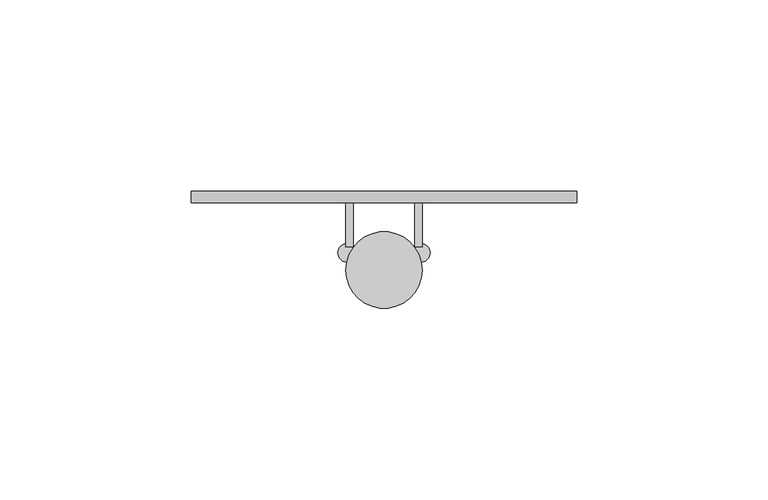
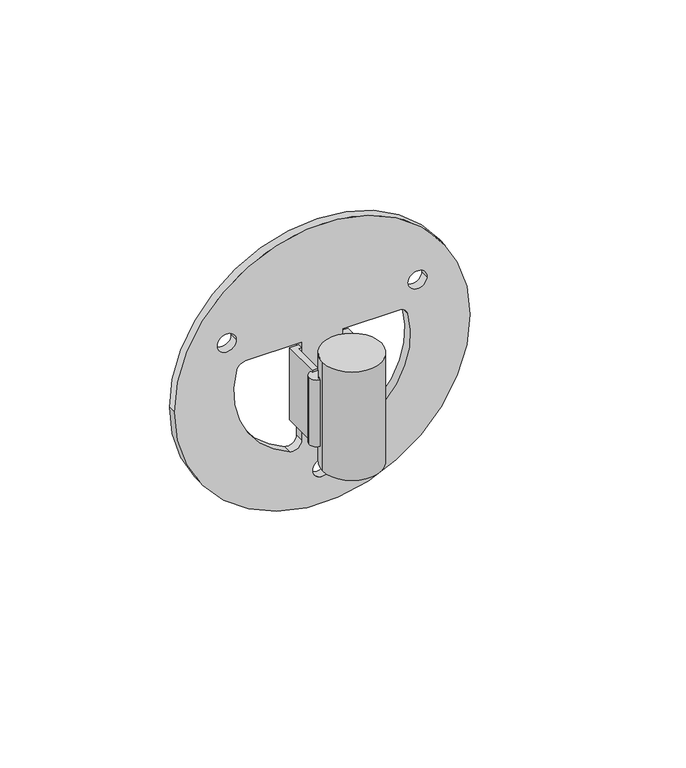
"""IFC4 building model written with IfcOpenShell, lengths in millimetres: proxy geometry, ePS8-WB02-WVM : ePS8-WB02-WVM."""

from ifc_helpers import new_model, si_unit, point, frame, frame_2d, origin, origin_2d, place, context, project, spatial, polyline, circle_curve, trimmed, segment, composite_curve, outline, extrude, source, transform, mapped, element, save


def generic_models_c327c4cc(model_context):
    return source(origin(), model_context, "Body", "SweptSolid", [
        extrude(outline(composite_curve([segment(trimmed(circle_curve(frame_2d((-9.5263012, -16.0228311)), 2.5), [point((-12.0263012, -16.0228311))], [point((-7.0263012, -16.0228311))], False, "CARTESIAN"), True, "CONTINUOUS"), segment(trimmed(circle_curve(frame_2d((-9.5263012, -16.0228311)), 2.5), [point((-7.0263012, -16.0228311))], [point((-12.0263012, -16.0228311))], False, "CARTESIAN"), True, "CONTINUOUS")], self_intersect=False)), frame((0.0, 0.0, -17.0), z_axis=(0.0, 0.0, 1.0), x_axis=(1.0, 0.0, 0.0)), (0.0, 0.0, 1.0), 24.0),
        extrude(outline(composite_curve([segment(trimmed(circle_curve(frame_2d((9.5263012, -16.0228311)), 2.5), [point((12.0263012, -16.0228311))], [point((7.0263012, -16.0228311))], False, "CARTESIAN"), True, "CONTINUOUS"), segment(trimmed(circle_curve(frame_2d((9.5263012, -16.0228311)), 2.5), [point((7.0263012, -16.0228311))], [point((12.0263012, -16.0228311))], False, "CARTESIAN"), True, "CONTINUOUS")], self_intersect=False)), frame((0.0, 0.0, -17.0), z_axis=(0.0, 0.0, 1.0), x_axis=(1.0, 0.0, 0.0)), (0.0, 0.0, 1.0), 24.0),
        extrude(outline(composite_curve([segment(trimmed(circle_curve(frame_2d((0.0, -20.5251268)), 10.0), [point((-10.0, -20.5251268))], [point((10.0, -20.5251268))], False, "CARTESIAN"), True, "CONTINUOUS"), segment(trimmed(circle_curve(frame_2d((0.0, -20.5251268)), 10.0), [point((10.0, -20.5251268))], [point((-10.0, -20.5251268))], False, "CARTESIAN"), True, "CONTINUOUS")], self_intersect=False)), frame((0.0, 0.0, -24.5009521), z_axis=(0.0, 0.0, 1.0), x_axis=(1.0, 0.0, 0.0)), (0.0, 0.0, 1.0), 39.0),
        extrude(outline(polyline([(-10.0, -1.0), (-7.0, -1.0), (-7.0, -3.0), (-8.0, -3.0), (-8.0, -14.5), (-10.0, -14.5), (-10.0, -1.0)])), frame((0.0, 0.0, -18.0019043), z_axis=(0.0, 0.0, 1.0), x_axis=(1.0, 0.0, 0.0)), (0.0, 0.0, 1.0), 26.0019043),
        extrude(outline(polyline([(10.0, -1.0), (10.0, -14.5), (8.0, -14.5), (8.0, -3.0), (7.0, -3.0), (7.0, -1.0), (10.0, -1.0)])), frame((0.0, 0.0, -18.0019043), z_axis=(0.0, 0.0, 1.0), x_axis=(1.0, 0.0, 0.0)), (0.0, 0.0, 1.0), 26.0019043),
        extrude(outline(composite_curve([segment(trimmed(circle_curve(origin_2d(), 50.3), [point((0.0, -50.3))], [point((0.0, 50.3))], False, "CARTESIAN"), True, "CONTINUOUS"), segment(trimmed(circle_curve(origin_2d(), 50.3), [point((0.0, 50.3))], [point((0.0, -50.3))], False, "CARTESIAN"), True, "CONTINUOUS")], self_intersect=False), holes=[composite_curve([segment(trimmed(circle_curve(origin_2d(), 30.0), [point((-27.8665249, -11.1111111))], [point((7.7777778, -28.9742329))], True, "CARTESIAN"), True, "CONTINUOUS"), segment(trimmed(circle_curve(frame_2d((7.0, -26.0768096)), 3.0), [point((7.7777778, -28.9742329))], [point((10.0, -26.0768096))], True, "CARTESIAN"), True, "CONTINUOUS"), segment(polyline([(10.0, -26.0768096), (10.0, -7.0), (-25.0798724, -7.0)]), True, "CONTINUOUS"), segment(trimmed(circle_curve(frame_2d((-25.0798724, -10.0)), 3.0), [point((-25.0798724, -7.0))], [point((-27.8665249, -11.1111111))], True, "CARTESIAN"), True, "CONTINUOUS")], self_intersect=False), composite_curve([segment(trimmed(circle_curve(frame_2d((18.7476534, -32.4779697)), 3.2), [point((18.7476534, -29.2779697))], [point((18.7476534, -35.6779697))], True, "CARTESIAN"), True, "CONTINUOUS"), segment(trimmed(circle_curve(frame_2d((18.7476534, -32.4779697)), 3.2), [point((18.7476534, -35.6779697))], [point((18.7476534, -29.2779697))], True, "CARTESIAN"), True, "CONTINUOUS")], self_intersect=False), composite_curve([segment(trimmed(circle_curve(frame_2d((18.7476534, 32.4779697)), 3.2), [point((18.7476534, 29.2779697))], [point((18.7476534, 35.6779697))], True, "CARTESIAN"), True, "CONTINUOUS"), segment(trimmed(circle_curve(frame_2d((18.7476534, 32.4779697)), 3.2), [point((18.7476534, 35.6779697))], [point((18.7476534, 29.2779697))], True, "CARTESIAN"), True, "CONTINUOUS")], self_intersect=False), composite_curve([segment(trimmed(circle_curve(frame_2d((-37.417682, 0.0)), 3.2), [point((-37.417682, 3.2))], [point((-37.417682, -3.2))], True, "CARTESIAN"), True, "CONTINUOUS"), segment(trimmed(circle_curve(frame_2d((-37.417682, 0.0)), 3.2), [point((-37.417682, -3.2))], [point((-37.417682, 3.2))], True, "CARTESIAN"), True, "CONTINUOUS")], self_intersect=False), composite_curve([segment(polyline([(10.0, 7.0), (10.0, 26.0768096)]), True, "CONTINUOUS"), segment(trimmed(circle_curve(frame_2d((7.0, 26.0768096)), 3.0), [point((10.0, 26.0768096))], [point((7.7777778, 28.9742329))], True, "CARTESIAN"), True, "CONTINUOUS"), segment(trimmed(circle_curve(origin_2d(), 30.0), [point((7.7777778, 28.9742329))], [point((-27.8665249, 11.1111111))], True, "CARTESIAN"), True, "CONTINUOUS"), segment(trimmed(circle_curve(frame_2d((-25.0798724, 10.0)), 3.0), [point((-27.8665249, 11.1111111))], [point((-25.0798724, 7.0))], True, "CARTESIAN"), True, "CONTINUOUS"), segment(polyline([(-25.0798724, 7.0), (10.0, 7.0)]), True, "CONTINUOUS")], self_intersect=False)]), frame((0.0, -3.0, 0.0), z_axis=(0.0, 1.0, 0.0), x_axis=(0.0, 0.0, 1.0)), (0.0, 0.0, 1.0), 3.0),
    ])


if __name__ == "__main__":
    model = new_model("IFC4")
    model_context = context("Model", 3, world=origin())
    ifc_project = project(units=[si_unit("LENGTHUNIT", "METRE", prefix="MILLI")], contexts=[model_context])
    site = spatial("IfcSite", under=ifc_project)
    building = spatial("IfcBuilding", under=site)
    placement = place(None, origin())
    generic_models_shape = generic_models_c327c4cc(model_context)
    element("IfcBuildingElementProxy", 1, Name="ePS8-WB02-WVM : ePS8-WB02-WVM", ObjectType="ePS8-WB02-WVM : ePS8-WB02-WVM", at=placement, inside=building, context=model_context, shape_type="MappedRepresentation", body=[
        mapped(generic_models_shape, transform((0.0, 0.0, 0.0), x_axis=(1.0, 0.0, 0.0), y_axis=(0.0, 1.0, 0.0), z_axis=(0.0, 0.0, 1.0))),
    ])
    save(model, "model.ifc")
